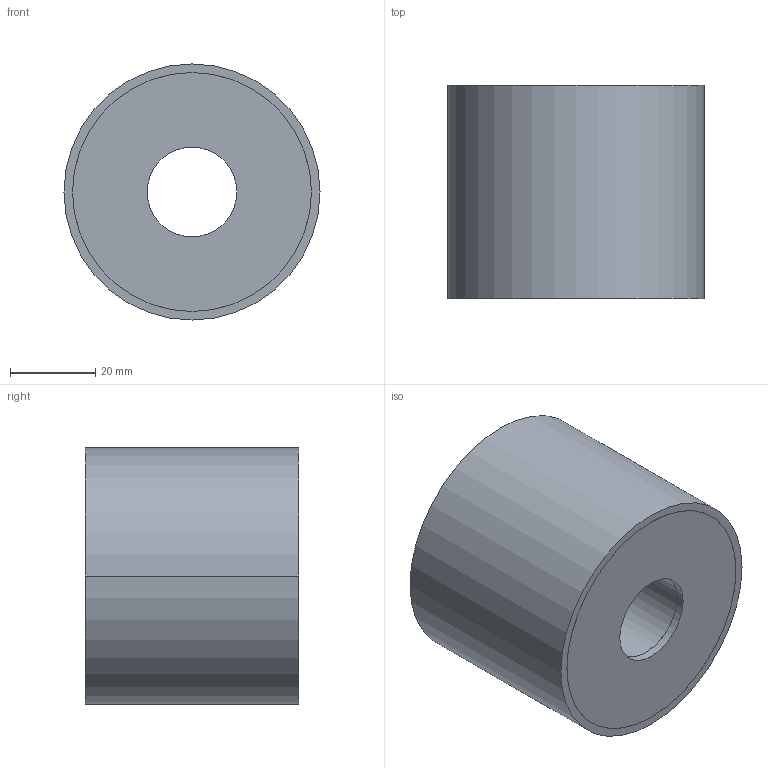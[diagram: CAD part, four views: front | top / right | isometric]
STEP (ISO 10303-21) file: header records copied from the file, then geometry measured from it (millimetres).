
FILE_DESCRIPTION (( 'STEP AP214' ), '1' );
FILE_NAME ('351-60-50-21-DD-70.step', '2025-07-23T10:12:04', ( '' ), ( '' ), 'SwSTEP 2.0', 'SolidWorks 2022', '' );
FILE_SCHEMA (( 'AUTOMOTIVE_DESIGN' ));
Length unit declared in the file: millimetre
Products named in the file (1): 351-60-50-21-DD-70
Bounding box: 60 x 50 x 60 mm (x, y, z)
Volume: 124053.6 mm3; surface area: 17695.3 mm2
Topology: 1 solids, 1 shells, 30 faces, 60 edges, 40 vertices
Faces by surface type: cylinder 20, plane 10
Entity records: 919 total; most frequent: DIRECTION 162, CARTESIAN_POINT 131, ORIENTED_EDGE 120, AXIS2_PLACEMENT_3D 71, EDGE_CURVE 60, VERTEX_POINT 40, CIRCLE 40, EDGE_LOOP 40
